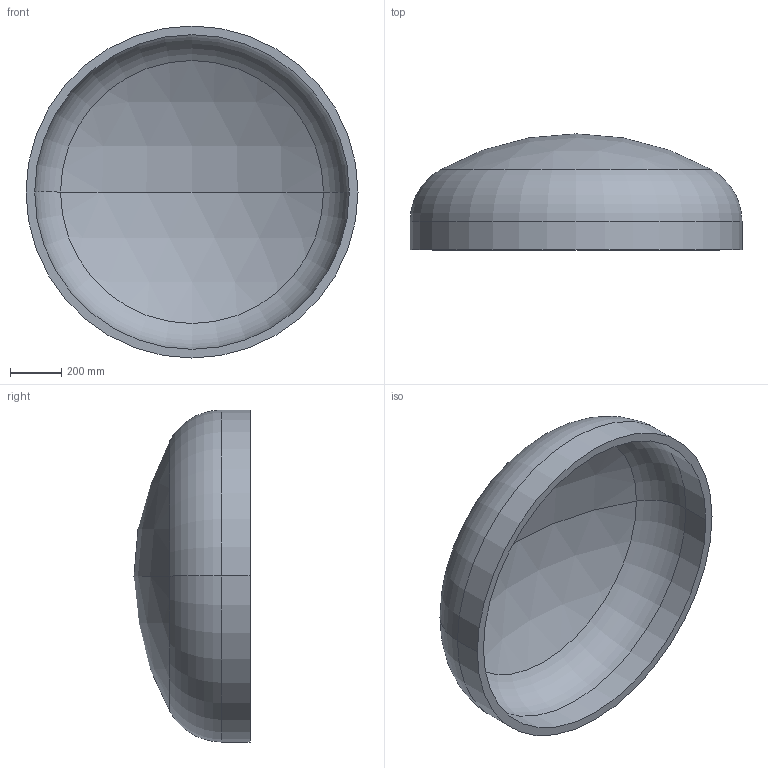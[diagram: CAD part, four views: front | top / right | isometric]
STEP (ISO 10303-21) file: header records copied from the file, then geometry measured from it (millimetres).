
FILE_DESCRIPTION (( 'STEP AP203' ), '1' );
FILE_NAME ('DIN 28013 Korbbogenform_-_Boden DIN 28013 - 1300 x 110 - I - s=34.step', '2016-07-01T09:49:22', ( '' ), ( '' ), 'SwSTEP 2.0', 'SolidWorks 2013', '' );
FILE_SCHEMA (( 'CONFIG_CONTROL_DESIGN' ));
Length unit declared in the file: millimetre
Products named in the file (1): DIN 28013 Korbbogenform_-_Boden DIN 28013 - 1300 x 110 - I - s=34
Bounding box: 1300 x 454.24 x 1300 mm (x, y, z)
Volume: 75259990.3 mm3; surface area: 4564704.8 mm2
Topology: 1 solids, 1 shells, 13 faces, 24 edges, 14 vertices
Faces by surface type: torus 4, cylinder 4, sphere 4, plane 1
Entity records: 407 total; most frequent: DIRECTION 72, CARTESIAN_POINT 52, ORIENTED_EDGE 48, AXIS2_PLACEMENT_3D 34, EDGE_CURVE 24, CIRCLE 20, VERTEX_POINT 14, EDGE_LOOP 14
